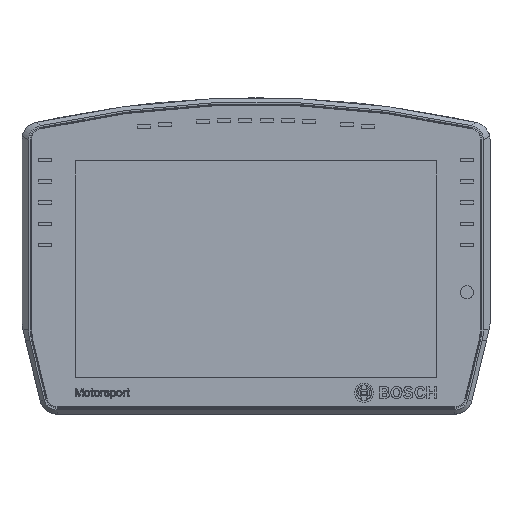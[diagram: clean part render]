
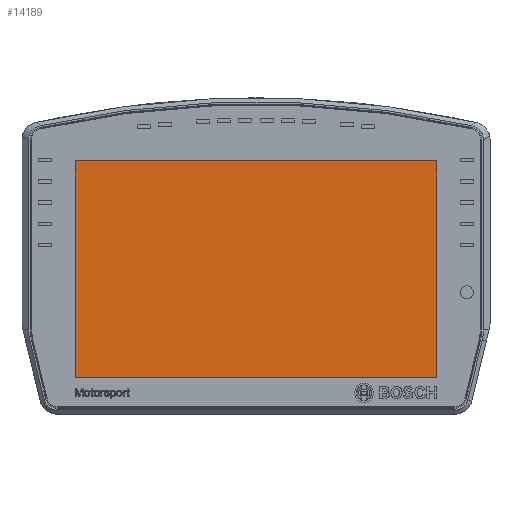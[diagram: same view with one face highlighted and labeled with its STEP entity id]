
A CAD part, top view. The second image highlights one B-rep face of the part: STEP entity #14189.
In plain terms, the highlighted planar face has unit normal (0, 0, 1).
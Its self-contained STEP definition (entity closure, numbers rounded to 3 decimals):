
#12597=FACE_OUTER_BOUND('',#21999,.T.);
#14189=ADVANCED_FACE('',(#12597),#15876,.F.);
#15876=PLANE('',#42047);
#17227=LINE('',#53568,#19045);
#17229=LINE('',#53572,#19047);
#17231=LINE('',#53576,#19049);
#17233=LINE('',#53580,#19051);
#19045=VECTOR('',#45803,1.);
#19047=VECTOR('',#45807,1.);
#19049=VECTOR('',#45811,1.);
#19051=VECTOR('',#45815,1.);
#21999=EDGE_LOOP('',(#25660,#25661,#25662,#25663));
#25660=ORIENTED_EDGE('',*,*,#36845,.F.);
#25661=ORIENTED_EDGE('',*,*,#36851,.F.);
#25662=ORIENTED_EDGE('',*,*,#36849,.F.);
#25663=ORIENTED_EDGE('',*,*,#36847,.F.);
#33529=VERTEX_POINT('',#53567);
#33530=VERTEX_POINT('',#53569);
#33531=VERTEX_POINT('',#53573);
#33532=VERTEX_POINT('',#53577);
#36845=EDGE_CURVE('',#33529,#33530,#17227,.T.);
#36847=EDGE_CURVE('',#33530,#33531,#17229,.T.);
#36849=EDGE_CURVE('',#33531,#33532,#17231,.T.);
#36851=EDGE_CURVE('',#33532,#33529,#17233,.T.);
#42047=AXIS2_PLACEMENT_3D('',#53582,#45818,#45819);
#45803=DIRECTION('',(0.,1.,0.));
#45807=DIRECTION('',(1.,0.,0.));
#45811=DIRECTION('',(0.,-1.,0.));
#45815=DIRECTION('',(-1.,0.,0.));
#45818=DIRECTION('',(0.,0.,-1.));
#45819=DIRECTION('',(-1.,0.,0.));
#53567=CARTESIAN_POINT('',(-76.4,-47.7,1.1));
#53568=CARTESIAN_POINT('',(-76.4,-47.7,1.1));
#53569=CARTESIAN_POINT('',(-76.4,44.1,1.1));
#53572=CARTESIAN_POINT('',(-76.4,44.1,1.1));
#53573=CARTESIAN_POINT('',(76.4,44.1,1.1));
#53576=CARTESIAN_POINT('',(76.4,44.1,1.1));
#53577=CARTESIAN_POINT('',(76.4,-47.7,1.1));
#53580=CARTESIAN_POINT('',(76.4,-47.7,1.1));
#53582=CARTESIAN_POINT('',(0.,0.,1.1));
